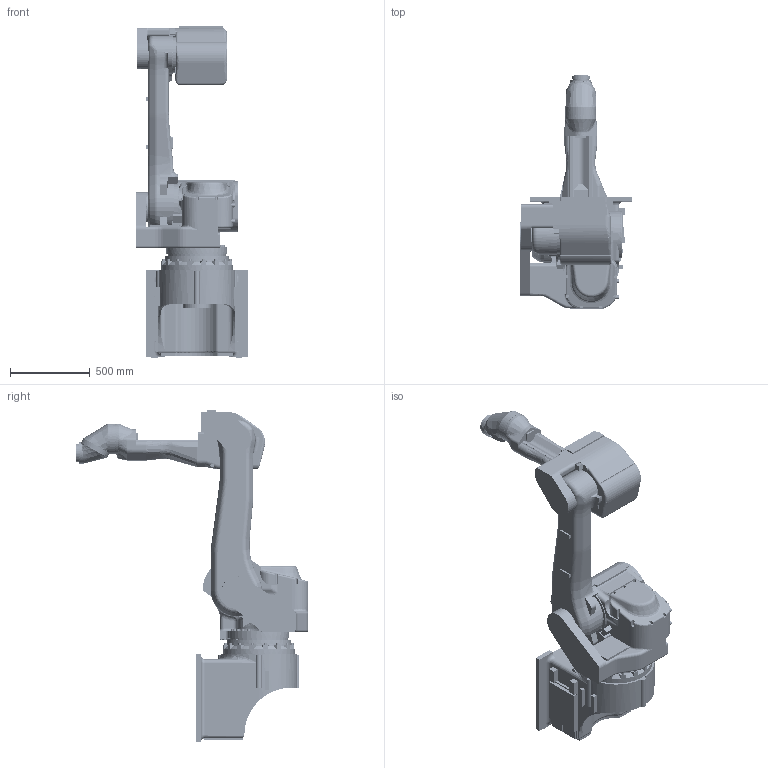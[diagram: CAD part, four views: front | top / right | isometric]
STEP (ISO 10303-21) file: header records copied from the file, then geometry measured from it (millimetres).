
FILE_DESCRIPTION(('CATIA V5 STEP Exchange'),'2;1');
FILE_NAME('F:\☆新しいフォルダ\【K-ROSET】\K-ROSET_モデル\ロボット\※ロボット\※K\☆150522_KJシリーズ一新\受領モデル\KJ\ASSY\※KJ194Ｊ-H001(tana）\KJ194-H001(KJ194-A001-SHELF)\Part\ASSY\STEP_160223\KJ194-H001.stp','2016-02-23T02:10:16+00:00',('none'),('none'),'CATIA Version 5-6 Release 2013 SP5 HF60','CATIA V5 STEP AP203','none');
FILE_SCHEMA(('CONFIG_CONTROL_DESIGN'));
Products named in the file (1): KJ194-H001
Assembly tree (7 placements, depth 2):
  KJ194-H001
    #57
    #22194
    #90410
    #112530
    #234508
    #235024
    #236142
Bounding box: 700 x 1455 x 2076 mm (x, y, z)
Volume: 110144111.4 mm3; surface area: 12514460.2 mm2
Topology: 7 solids, 114 shells, 5686 faces, 14121 edges, 8424 vertices
Faces by surface type: cylinder 2122, plane 1531, bspline 817, torus 572, cone 436, sphere 110, revolution 73, extrusion 25
Entity records: 237071 total; most frequent: CARTESIAN_POINT 119405, ORIENTED_EDGE 27320, DIRECTION 17812, EDGE_CURVE 13660, AXIS2_PLACEMENT_3D 8905, VERTEX_POINT 8424, EDGE_LOOP 5958, ADVANCED_FACE 5686
